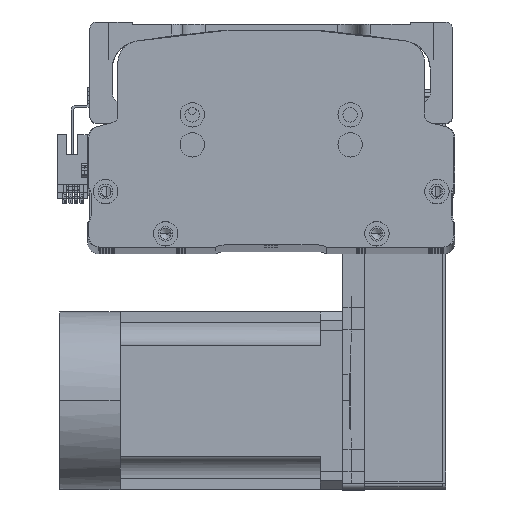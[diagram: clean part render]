
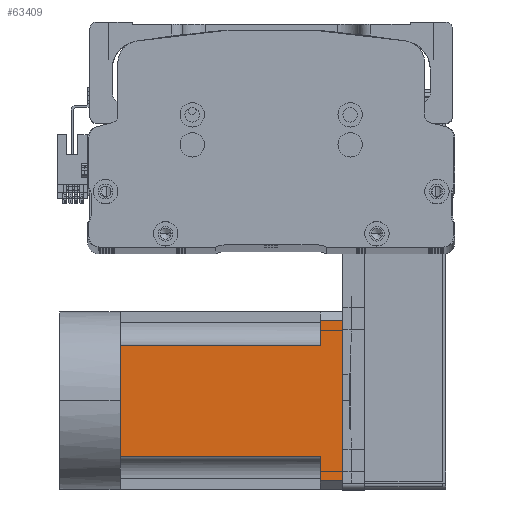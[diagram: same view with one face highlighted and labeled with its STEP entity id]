
A CAD part, top view. The second image highlights one B-rep face of the part: STEP entity #63409.
In plain terms, the highlighted planar face has unit normal (0, 0, 1) as drawn and (0, 0, -1) by its records, which use the part's own axes.
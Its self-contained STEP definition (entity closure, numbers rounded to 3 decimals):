
#1213 = LINE ( 'NONE', #64635, #55911 ) ;
#1754 = VERTEX_POINT ( 'NONE', #53083 ) ;
#3965 = DIRECTION ( 'NONE',  ( 0., 0., -1. ) ) ;
#4069 = EDGE_CURVE ( 'NONE', #47207, #40945, #13021, .T. ) ;
#4391 = DIRECTION ( 'NONE',  ( -1., 0., 0. ) ) ;
#4682 = DIRECTION ( 'NONE',  ( 0., 1., 0. ) ) ;
#4925 = CARTESIAN_POINT ( 'NONE',  ( 0., 0., -40. ) ) ;
#5127 = VECTOR ( 'NONE', #26595, 1000. ) ;
#5340 = CARTESIAN_POINT ( 'NONE',  ( -40., 90., -40. ) ) ;
#6124 = CARTESIAN_POINT ( 'NONE',  ( -36., 100., -40. ) ) ;
#7216 = ORIENTED_EDGE ( 'NONE', *, *, #4069, .T. ) ;
#10192 = DIRECTION ( 'NONE',  ( -1., 0., 0. ) ) ;
#11327 = VECTOR ( 'NONE', #4682, 1000. ) ;
#13021 = LINE ( 'NONE', #47082, #11327 ) ;
#13253 = CARTESIAN_POINT ( 'NONE',  ( -40., 90., -40. ) ) ;
#14664 = EDGE_CURVE ( 'NONE', #20123, #58293, #37067, .T. ) ;
#15565 = LINE ( 'NONE', #41955, #56119 ) ;
#17040 = VECTOR ( 'NONE', #20071, 1000. ) ;
#17246 = DIRECTION ( 'NONE',  ( -1., 0., 0. ) ) ;
#17600 = VERTEX_POINT ( 'NONE', #20822 ) ;
#17636 = EDGE_CURVE ( 'NONE', #20123, #1754, #19205, .T. ) ;
#17966 = LINE ( 'NONE', #48487, #30392 ) ;
#18696 = LINE ( 'NONE', #62391, #17040 ) ;
#19205 = LINE ( 'NONE', #58307, #5127 ) ;
#20022 = VECTOR ( 'NONE', #42435, 1000. ) ;
#20071 = DIRECTION ( 'NONE',  ( 0., 1., 0. ) ) ;
#20123 = VERTEX_POINT ( 'NONE', #25677 ) ;
#20418 = LINE ( 'NONE', #13253, #32863 ) ;
#20822 = CARTESIAN_POINT ( 'NONE',  ( -36., 90., -40. ) ) ;
#21603 = FACE_OUTER_BOUND ( 'NONE', #46839, .T. ) ;
#25677 = CARTESIAN_POINT ( 'NONE',  ( 36., 100., -40. ) ) ;
#26291 = CARTESIAN_POINT ( 'NONE',  ( -25., 90., -40. ) ) ;
#26595 = DIRECTION ( 'NONE',  ( 0., -1., 0. ) ) ;
#27664 = AXIS2_PLACEMENT_3D ( 'NONE', #62018, #3965, #41073 ) ;
#30392 = VECTOR ( 'NONE', #64359, 1000. ) ;
#31239 = CARTESIAN_POINT ( 'NONE',  ( -40., 100., -40. ) ) ;
#32863 = VECTOR ( 'NONE', #55603, 1000. ) ;
#33684 = VECTOR ( 'NONE', #4391, 1000. ) ;
#35872 = EDGE_CURVE ( 'NONE', #45705, #47207, #15565, .T. ) ;
#37067 = LINE ( 'NONE', #31239, #33684 ) ;
#40134 = ORIENTED_EDGE ( 'NONE', *, *, #50735, .T. ) ;
#40538 = ORIENTED_EDGE ( 'NONE', *, *, #48355, .T. ) ;
#40560 = ORIENTED_EDGE ( 'NONE', *, *, #14664, .F. ) ;
#40832 = VERTEX_POINT ( 'NONE', #46729 ) ;
#40945 = VERTEX_POINT ( 'NONE', #26291 ) ;
#41073 = DIRECTION ( 'NONE',  ( -1., 0., 0. ) ) ;
#41955 = CARTESIAN_POINT ( 'NONE',  ( -40., 0., -40. ) ) ;
#42435 = DIRECTION ( 'NONE',  ( -1., 0., 0. ) ) ;
#45596 = ORIENTED_EDGE ( 'NONE', *, *, #65562, .T. ) ;
#45705 = VERTEX_POINT ( 'NONE', #4925 ) ;
#46729 = CARTESIAN_POINT ( 'NONE',  ( 25., 90., -40. ) ) ;
#46839 = EDGE_LOOP ( 'NONE', ( #40560, #59548, #51558, #45596, #40134, #56880, #7216, #56174, #40538 ) ) ;
#47082 = CARTESIAN_POINT ( 'NONE',  ( -25., -27., -40. ) ) ;
#47207 = VERTEX_POINT ( 'NONE', #62770 ) ;
#48355 = EDGE_CURVE ( 'NONE', #17600, #58293, #18696, .T. ) ;
#48487 = CARTESIAN_POINT ( 'NONE',  ( 25., -27., -40. ) ) ;
#50735 = EDGE_CURVE ( 'NONE', #59143, #45705, #1213, .T. ) ;
#51558 = ORIENTED_EDGE ( 'NONE', *, *, #57245, .T. ) ;
#53083 = CARTESIAN_POINT ( 'NONE',  ( 36., 90., -40. ) ) ;
#55603 = DIRECTION ( 'NONE',  ( -1., 0., 0. ) ) ;
#55911 = VECTOR ( 'NONE', #17246, 1000. ) ;
#56119 = VECTOR ( 'NONE', #10192, 1000. ) ;
#56174 = ORIENTED_EDGE ( 'NONE', *, *, #65778, .T. ) ;
#56880 = ORIENTED_EDGE ( 'NONE', *, *, #35872, .T. ) ;
#57245 = EDGE_CURVE ( 'NONE', #1754, #40832, #60564, .T. ) ;
#57579 = CARTESIAN_POINT ( 'NONE',  ( 25., 0., -40. ) ) ;
#58293 = VERTEX_POINT ( 'NONE', #6124 ) ;
#58307 = CARTESIAN_POINT ( 'NONE',  ( 36., -27., -40. ) ) ;
#59143 = VERTEX_POINT ( 'NONE', #57579 ) ;
#59548 = ORIENTED_EDGE ( 'NONE', *, *, #17636, .T. ) ;
#60564 = LINE ( 'NONE', #5340, #20022 ) ;
#62018 = CARTESIAN_POINT ( 'NONE',  ( -40., -27., -40. ) ) ;
#62391 = CARTESIAN_POINT ( 'NONE',  ( -36., -27., -40. ) ) ;
#62770 = CARTESIAN_POINT ( 'NONE',  ( -25., 0., -40. ) ) ;
#63409 = ADVANCED_FACE ( 'NONE', ( #21603 ), #67354, .T. ) ;
#64359 = DIRECTION ( 'NONE',  ( 0., -1., 0. ) ) ;
#64635 = CARTESIAN_POINT ( 'NONE',  ( -40., 0., -40. ) ) ;
#65562 = EDGE_CURVE ( 'NONE', #40832, #59143, #17966, .T. ) ;
#65778 = EDGE_CURVE ( 'NONE', #40945, #17600, #20418, .T. ) ;
#67354 = PLANE ( 'NONE',  #27664 ) ;
